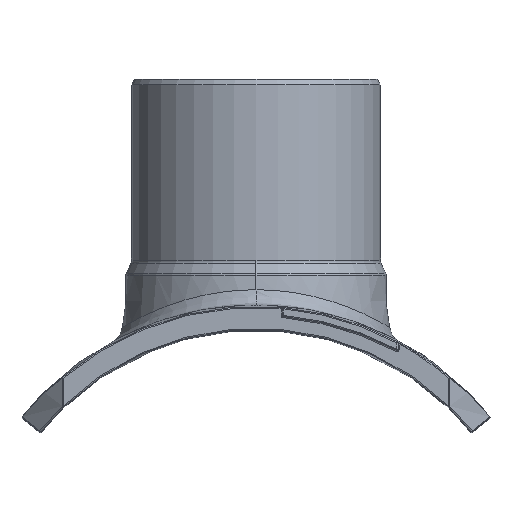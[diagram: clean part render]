
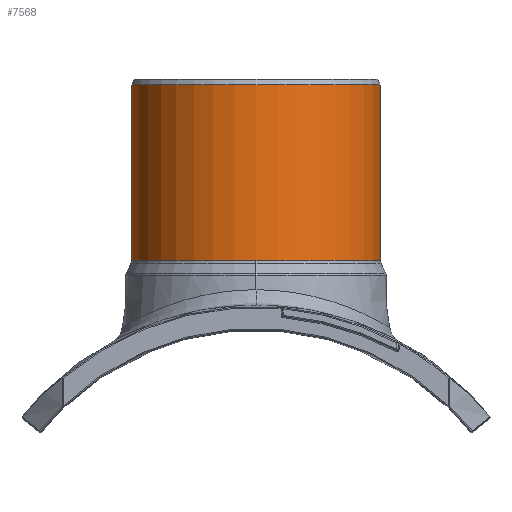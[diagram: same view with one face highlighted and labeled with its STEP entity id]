
A CAD part, top view. The second image highlights one B-rep face of the part: STEP entity #7568.
In plain terms, the highlighted cylindrical face has radius 112.5 mm (diameter 225 mm), a partial arc.
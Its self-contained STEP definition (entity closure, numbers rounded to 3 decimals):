
#1537=CARTESIAN_POINT('',(0.,312.083,0.));
#1538=DIRECTION('',(0.,-1.,0.));
#1539=DIRECTION('',(1.,0.,0.));
#1540=AXIS2_PLACEMENT_3D('',#1537,#1538,#1539);
#1545=CARTESIAN_POINT('',(0.,312.083,0.));
#1546=DIRECTION('',(0.,-1.,0.));
#1547=DIRECTION('',(0.,0.,1.));
#1548=AXIS2_PLACEMENT_3D('',#1545,#1546,#1547);
#1553=DIRECTION('',(0.,-1.,0.));
#1554=VECTOR('',#1553,158.917);
#1555=CARTESIAN_POINT('',(-112.5,471.,0.));
#1556=LINE('151588',#1555,#1554);
#1560=DIRECTION('',(0.,-1.,0.));
#1561=VECTOR('',#1560,158.917);
#1562=CARTESIAN_POINT('',(112.5,471.,0.));
#1563=LINE('151587',#1562,#1561);
#1614=CARTESIAN_POINT('',(0.,471.,0.));
#1615=DIRECTION('',(0.,1.,0.));
#1616=DIRECTION('',(-1.,0.,0.));
#1617=AXIS2_PLACEMENT_3D('',#1614,#1615,#1616);
#5979=CARTESIAN_POINT('',(112.5,471.,0.));
#5980=CARTESIAN_POINT('',(-112.5,471.,0.));
#5981=VERTEX_POINT('',#5979);
#5982=VERTEX_POINT('',#5980);
#6003=CARTESIAN_POINT('',(112.5,312.083,0.));
#6004=CARTESIAN_POINT('',(0.,312.083,112.5));
#6005=VERTEX_POINT('',#6003);
#6006=VERTEX_POINT('',#6004);
#6007=CARTESIAN_POINT('',(-112.5,312.083,0.));
#6008=VERTEX_POINT('',#6007);
#7553=CARTESIAN_POINT('',(0.,476.,0.));
#7554=DIRECTION('',(0.,1.,0.));
#7555=DIRECTION('',(1.,0.,0.));
#7556=AXIS2_PLACEMENT_3D('',#7553,#7554,#7555);
#7557=CYLINDRICAL_SURFACE('4584',#7556,112.5);
#7558=ORIENTED_EDGE('151579',*,*,#7530,.T.);
#7559=ORIENTED_EDGE('151581',*,*,#7545,.T.);
#7561=ORIENTED_EDGE('151588',*,*,#7560,.F.);
#7563=ORIENTED_EDGE('4600',*,*,#7562,.T.);
#7565=ORIENTED_EDGE('151587',*,*,#7564,.T.);
#7566=EDGE_LOOP('4584',(#7558,#7559,#7561,#7563,#7565));
#7567=FACE_OUTER_BOUND('4584',#7566,.F.);
#1541=CIRCLE('151579',#1540,112.5);
#1549=CIRCLE('151581',#1548,112.5);
#1618=CIRCLE('4600',#1617,112.5);
#7530=EDGE_CURVE('151579',#6005,#6006,#1541,.T.);
#7545=EDGE_CURVE('151581',#6006,#6008,#1549,.T.);
#7560=EDGE_CURVE('151588',#5982,#6008,#1556,.T.);
#7562=EDGE_CURVE('4600',#5982,#5981,#1618,.T.);
#7564=EDGE_CURVE('151587',#5981,#6005,#1563,.T.);
#7568=ADVANCED_FACE('4584',(#7567),#7557,.T.);
